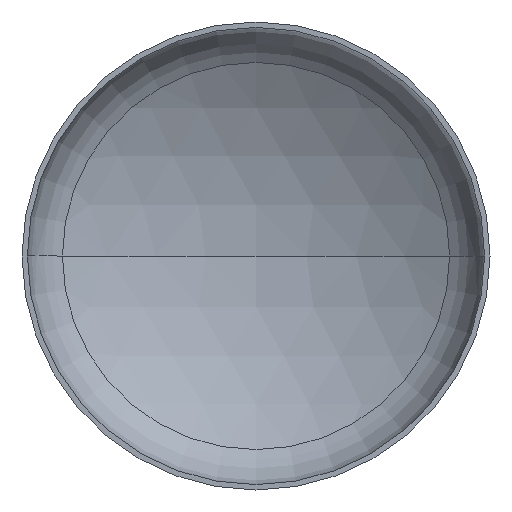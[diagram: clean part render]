
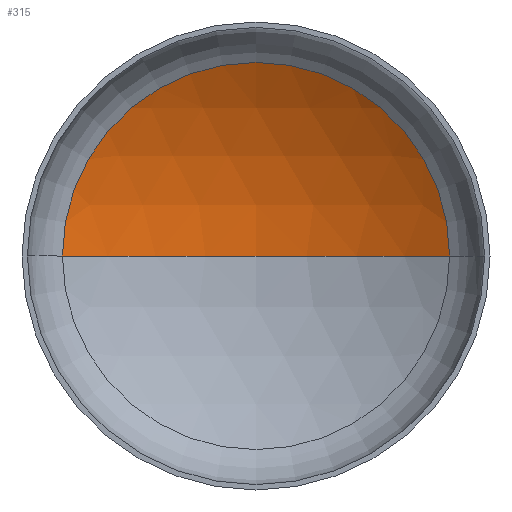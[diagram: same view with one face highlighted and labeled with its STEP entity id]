
A CAD part, front view. The second image highlights one B-rep face of the part: STEP entity #315.
In plain terms, the highlighted spherical face has radius 1600 mm.
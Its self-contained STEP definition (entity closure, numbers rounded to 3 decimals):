
#10 = FACE_OUTER_BOUND ( 'NONE', #37, .T. ) ;
#23 = CARTESIAN_POINT ( 'NONE',  ( 0., -1034.179, 0. ) ) ;
#37 = EDGE_LOOP ( 'NONE', ( #99, #66, #61 ) ) ;
#43 = AXIS2_PLACEMENT_3D ( 'NONE', #214, #283, #238 ) ;
#61 = ORIENTED_EDGE ( 'NONE', *, *, #157, .T. ) ;
#64 = VERTEX_POINT ( 'NONE', #267 ) ;
#66 = ORIENTED_EDGE ( 'NONE', *, *, #158, .T. ) ;
#70 = VERTEX_POINT ( 'NONE', #81 ) ;
#81 = CARTESIAN_POINT ( 'NONE',  ( -827.287, 335.345, 0. ) ) ;
#97 = AXIS2_PLACEMENT_3D ( 'NONE', #325, #345, #255 ) ;
#99 = ORIENTED_EDGE ( 'NONE', *, *, #161, .F. ) ;
#100 = AXIS2_PLACEMENT_3D ( 'NONE', #23, #285, #125 ) ;
#107 = AXIS2_PLACEMENT_3D ( 'NONE', #394, #259, #352 ) ;
#125 = DIRECTION ( 'NONE',  ( -1., 0., 0. ) ) ;
#135 = CIRCLE ( 'NONE', #100, 1600. ) ;
#157 = EDGE_CURVE ( 'NONE', #213, #70, #330, .T. ) ;
#158 = EDGE_CURVE ( 'NONE', #64, #213, #135, .T. ) ;
#161 = EDGE_CURVE ( 'NONE', #64, #70, #319, .T. ) ;
#166 = CARTESIAN_POINT ( 'NONE',  ( 827.287, 335.345, 0. ) ) ;
#213 = VERTEX_POINT ( 'NONE', #166 ) ;
#214 = CARTESIAN_POINT ( 'NONE',  ( 0., -1034.179, 0. ) ) ;
#238 = DIRECTION ( 'NONE',  ( -1., 0., 0. ) ) ;
#255 = DIRECTION ( 'NONE',  ( 1., 0., 0. ) ) ;
#259 = DIRECTION ( 'NONE',  ( 0., -1., 0. ) ) ;
#267 = CARTESIAN_POINT ( 'NONE',  ( 0., 565.821, 0. ) ) ;
#283 = DIRECTION ( 'NONE',  ( 0., 0., -1. ) ) ;
#285 = DIRECTION ( 'NONE',  ( 0., 0., -1. ) ) ;
#306 = SPHERICAL_SURFACE ( 'NONE', #43, 1600. ) ;
#315 = ADVANCED_FACE ( 'NONE', ( #10 ), #306, .F. ) ;
#319 = CIRCLE ( 'NONE', #97, 1600. ) ;
#325 = CARTESIAN_POINT ( 'NONE',  ( 0., -1034.179, 0. ) ) ;
#330 = CIRCLE ( 'NONE', #107, 827.287 ) ;
#345 = DIRECTION ( 'NONE',  ( 0., 0., 1. ) ) ;
#352 = DIRECTION ( 'NONE',  ( 1., 0., 0. ) ) ;
#394 = CARTESIAN_POINT ( 'NONE',  ( 0., 335.345, 0. ) ) ;
